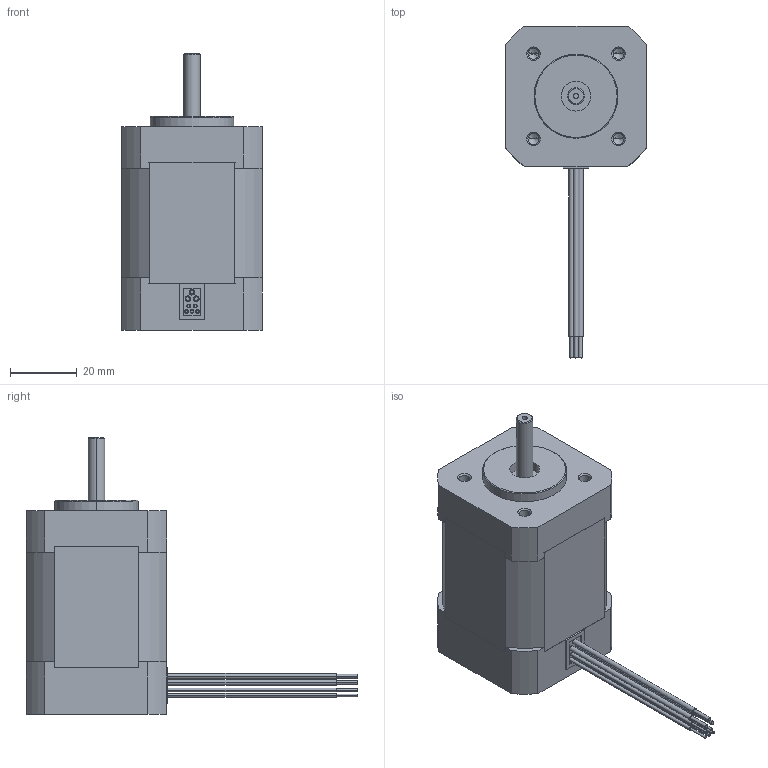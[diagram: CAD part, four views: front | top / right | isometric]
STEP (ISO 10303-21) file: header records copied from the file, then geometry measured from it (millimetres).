
FILE_DESCRIPTION (( 'STEP AP214' ), '1' );
FILE_NAME ('BLY172S.STEP', '2011-11-22T17:01:28', ( '' ), ( '' ), 'SwSTEP 2.0', 'SolidWorks 2011', '' );
FILE_SCHEMA (( 'AUTOMOTIVE_DESIGN' ));
Length unit declared in the file: inch
Products named in the file (1): BLY172S
Bounding box: 42.01 x 99.16 x 82.8 mm (x, y, z)
Volume: 103910.5 mm3; surface area: 16417.7 mm2
Topology: 1 solids, 1 shells, 228 faces, 542 edges, 350 vertices
Faces by surface type: plane 116, cylinder 90, cone 22
Entity records: 8265 total; most frequent: DIRECTION 1186, CARTESIAN_POINT 1113, ORIENTED_EDGE 1068, EDGE_CURVE 534, AXIS2_PLACEMENT_3D 423, VERTEX_POINT 350, LINE 340, VECTOR 340
